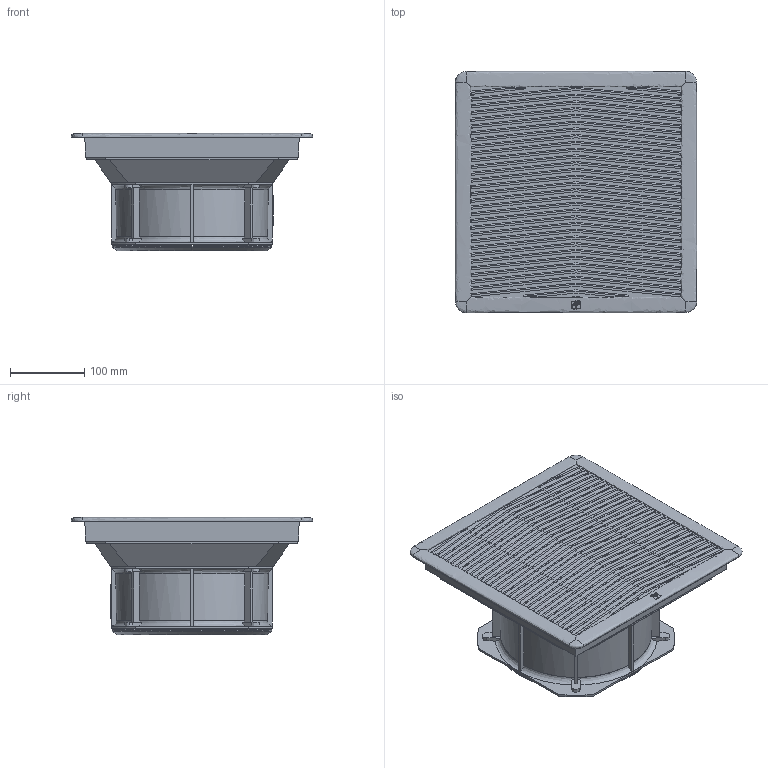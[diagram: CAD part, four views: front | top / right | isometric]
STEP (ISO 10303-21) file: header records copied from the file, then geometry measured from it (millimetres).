
FILE_DESCRIPTION(/* description */ (''),/* implementation_level */ '2;1');
FILE_NAME(/* name */ 'GF20KyxxxBE',/* time_stamp */ '2025-11-06T12:31:02+01:00',/* author */ (''),/* organization */ (''),/* preprocessor_version */ 'ST-DEVELOPER v16.5',/* originating_system */ 'Rhino 7.38',/* authorisation */ '');
FILE_SCHEMA (('AUTOMOTIVE_DESIGN'));
Length unit declared in the file: millimetre
Products named in the file (11): Document; GF20KyxxxBE; P20FPF-7035_semplificata; GF20KUG_Assieme semplificato; GF20B-7035_semplificato; GF20C-7035_semplificata; GMP200NK_semplificata; DT-02093DSI_C22s semplificato con cond.; DT-02091DSI_semplificato; DT-02092DSI_b_semplificato; 040014_LK_980-01-4_Semplificata
Assembly tree (10 placements, depth 4):
  Document
    GF20KyxxxBE
      P20FPF-7035_semplificata
      GF20KUG_Assieme semplificato
        GF20B-7035_semplificato
        GF20C-7035_semplificata
      GMP200NK_semplificata
      DT-02093DSI_C22s semplificato con cond.
        DT-02091DSI_semplificato
        DT-02092DSI_b_semplificato
        040014_LK_980-01-4_Semplificata
Bounding box: 325 x 325 x 158.69 mm (x, y, z)
Volume: 7832030.9 mm3; surface area: 783682.7 mm2
Topology: 40 solids, 40 shells, 1158 faces, 2946 edges, 1896 vertices
Faces by surface type: plane 895, bspline 210, cylinder 53
Entity records: 48737 total; most frequent: CARTESIAN_POINT 27877, ORIENTED_EDGE 5882, EDGE_CURVE 2941, B_SPLINE_CURVE_WITH_KNOTS 2691, VERTEX_POINT 1896, EDGE_LOOP 1191, ADVANCED_FACE 1158, FACE_OUTER_BOUND 1158
